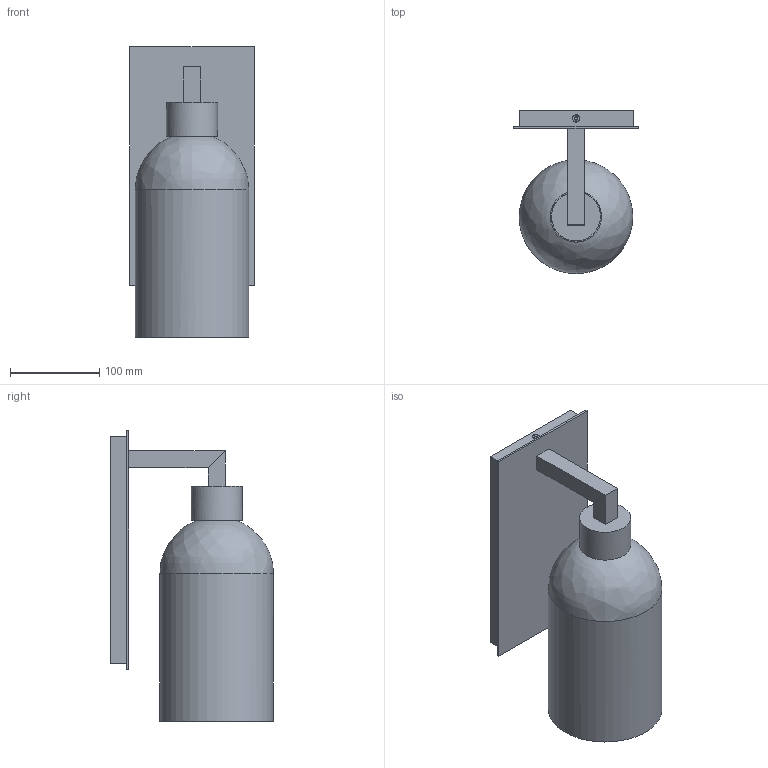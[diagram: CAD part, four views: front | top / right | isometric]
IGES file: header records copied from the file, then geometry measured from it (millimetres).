
Global section: file name: Niche - Cloche Petite - Sconce; native system: unknown; preprocessor: unknown; author: unknown; organization: unknown; date: 20220815.105115; units: inch
Bounding box: 139.7 x 182.12 x 324.82 mm (x, y, z)
Volume: 555393 mm3; surface area: 551640.6 mm2
Topology: 10 solids, 10 shells, 212 faces, 538 edges, 353 vertices
Faces by surface type: bspline 212
